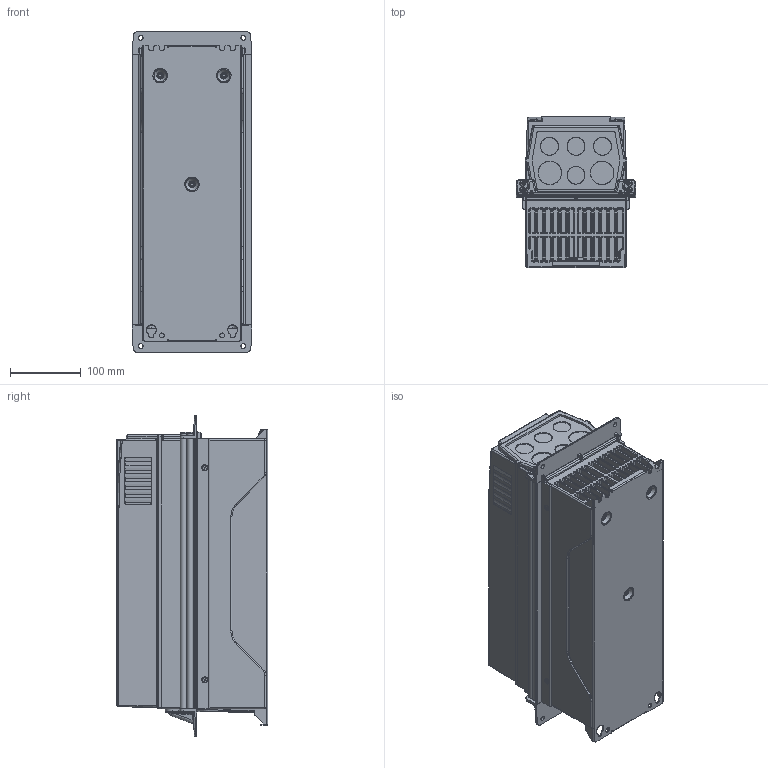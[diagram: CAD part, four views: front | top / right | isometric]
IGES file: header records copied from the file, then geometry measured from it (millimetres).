
Global section: file name: C:\temp\3D mechanics (extra.vacon)\Agileen\MR5\MR5_Simplified_Model_Flange_Mount_igs.igs; native system: NX V6.0; preprocessor: SIEMENS UGS NX 6.0; date: 20121214.101416; units: millimetre
Bounding box: 169.01 x 214 x 454.14 mm (x, y, z)
Surface area: 719000.1 mm2 (no closed solid volume)
Topology: 0 solids, 0 shells, 2459 faces, 14930 edges, 14726 vertices
Faces by surface type: bspline 2459
